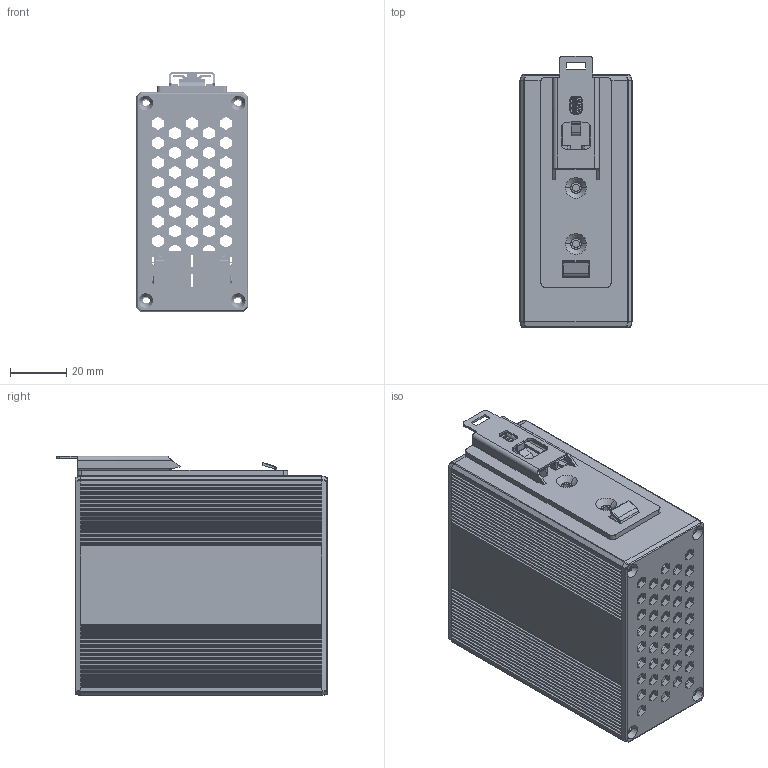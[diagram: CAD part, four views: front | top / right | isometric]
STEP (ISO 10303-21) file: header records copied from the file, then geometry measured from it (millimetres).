
FILE_DESCRIPTION((''),'2;1');
FILE_NAME('PRO_EC_6_SW0001','2026-07-08T15:52:01',('Administrator'),(''),'CREO PARAMETRIC BY PTC INC, 2022073','CREO PARAMETRIC BY PTC INC, 2022073','');
FILE_SCHEMA(('CONFIG_CONTROL_DESIGN'));
Products named in the file (1): PRO_EC_6_SW0001
Bounding box: 40 x 96.6 x 85.55 mm (x, y, z)
Volume: 69509.9 mm3; surface area: 98846.7 mm2
Topology: 21 solids, 21 shells, 9123 faces, 26854 edges, 17636 vertices
Faces by surface type: plane 7020, cylinder 1608, extrusion 271, cone 96, torus 82, bspline 40, sphere 6
Entity records: 308614 total; most frequent: CARTESIAN_POINT 63925, ORIENTED_EDGE 53696, DIRECTION 47033, EDGE_CURVE 26848, VECTOR 22537, LINE 22266, VERTEX_POINT 17636, AXIS2_PLACEMENT_3D 12248
